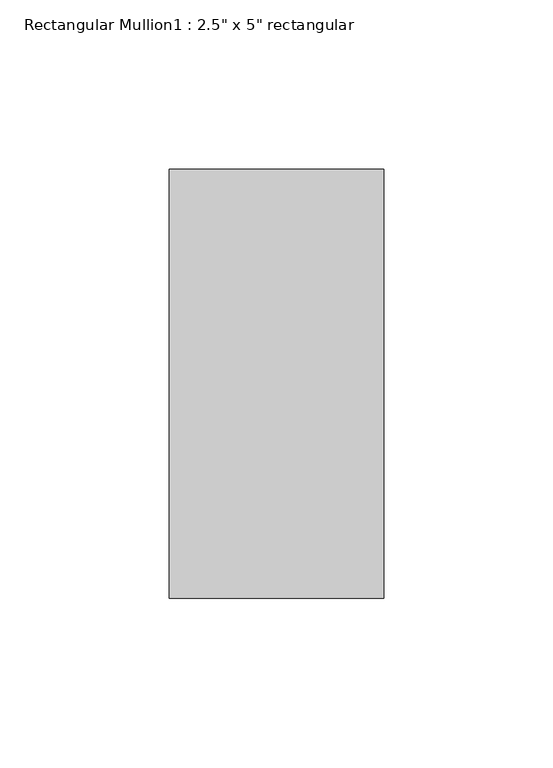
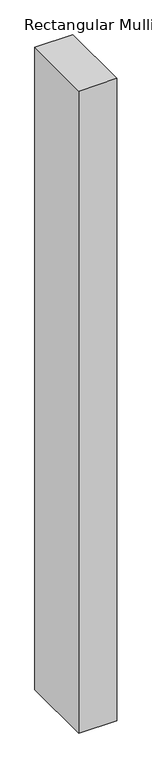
"""IFC4 building model written with IfcOpenShell, lengths in millimetres: member geometry."""

from ifc_helpers import new_model, si_unit, frame, origin, place, context, project, spatial, polyline, outline, extrude, source, transform, mapped, element, save


def member_b037884b(model_context):
    return source(origin(), model_context, "Body", "SweptSolid", [
        extrude(outline(polyline([(0.0, 63.5), (0.0, -63.5), (-63.5, -63.5), (-63.5, 63.5), (0.0, 63.5)])), frame((0.0, 0.0, -1134.5333334), z_axis=(0.0, 0.0, 1.0), x_axis=(1.0, 0.0, 0.0)), (0.0, 0.0, 1.0), 1134.5333334),
    ])


if __name__ == "__main__":
    model = new_model("IFC4")
    model_context = context("Model", 3, world=origin())
    ifc_project = project(units=[si_unit("LENGTHUNIT", "METRE", prefix="MILLI")], contexts=[model_context])
    site = spatial("IfcSite", under=ifc_project)
    building = spatial("IfcBuilding", under=site)
    placement = place(None, origin())
    member_shape = member_b037884b(model_context)
    element("IfcMember", 1, ObjectType="Rectangular Mullion1 : 2.5\" x 5\" rectangular", at=placement, inside=building, context=model_context, shape_type="MappedRepresentation", body=[
        mapped(member_shape, transform((0.0, 0.0, 0.0), x_axis=(1.0, 0.0, 0.0), y_axis=(0.0, 1.0, 0.0), z_axis=(0.0, 0.0, 1.0))),
    ])
    save(model, "model.ifc")
